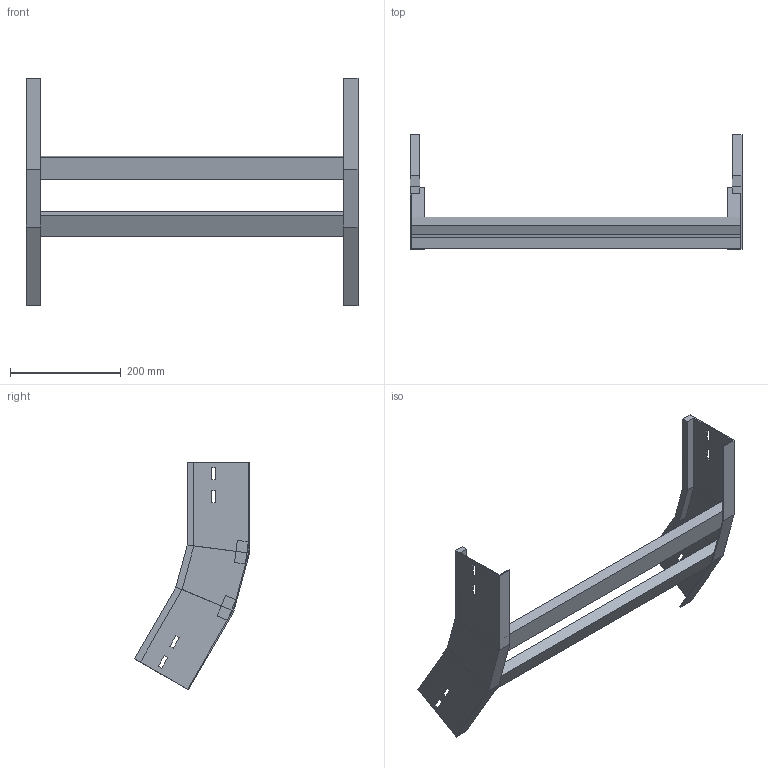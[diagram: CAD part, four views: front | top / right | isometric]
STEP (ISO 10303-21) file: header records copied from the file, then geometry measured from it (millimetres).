
FILE_DESCRIPTION (( 'STEP AP214' ), '1' );
FILE_NAME ('A2X32B3J600XX.step', '2025-03-20T09:59:24', ( '' ), ( '' ), 'SwSTEP 2.0', 'SolidWorks 2023', '' );
FILE_SCHEMA (( 'AUTOMOTIVE_DESIGN' ));
Length unit declared in the file: millimetre
Products named in the file (3): TRAVERSINO_600; A2X32B3J600XX; LONGH.SALITA_30°_H112.5_R300
Assembly tree (4 placements, depth 2):
  A2X32B3J600XX
    LONGH.SALITA_30°_H112.5_R300  x2
    TRAVERSINO_600  x2
Bounding box: 600 x 207.73 x 411.66 mm (x, y, z)
Volume: 1336668.9 mm3; surface area: 402658 mm2
Topology: 4 solids, 4 shells, 96 faces, 232 edges, 144 vertices
Faces by surface type: plane 96
Entity records: 1472 total; most frequent: CARTESIAN_POINT 243, ORIENTED_EDGE 232, DIRECTION 226, EDGE_CURVE 116, LINE 116, VECTOR 116, VERTEX_POINT 72, EDGE_LOOP 56
